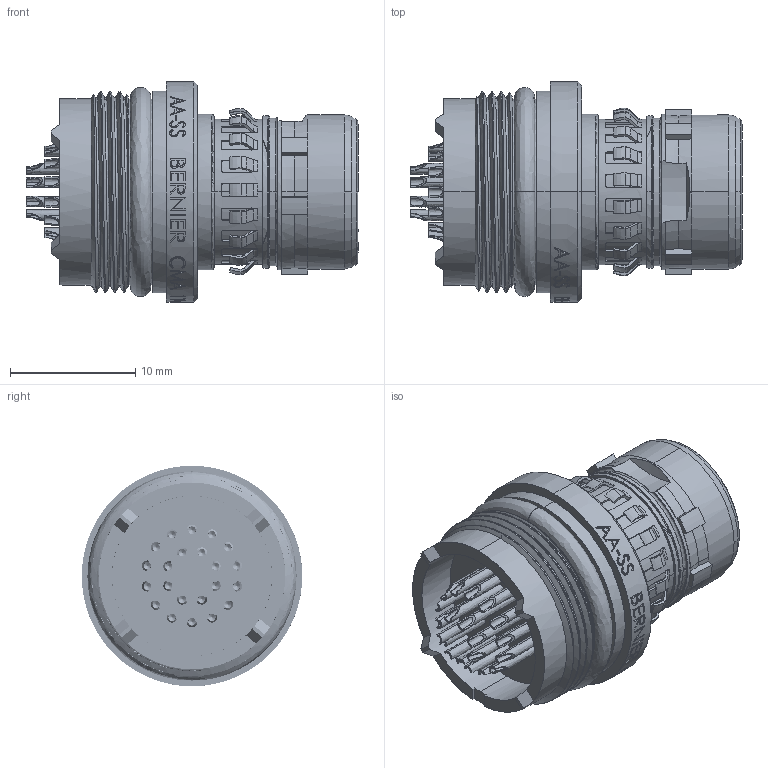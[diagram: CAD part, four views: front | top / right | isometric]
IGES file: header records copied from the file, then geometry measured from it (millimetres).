
Start section: SolidWorks IGES file using analytic representation for surfaces
Global section: file name: C:\Users\JGC\Desktop\CMA1W222.IGS; native system: SolidWorks 2017; preprocessor: SolidWorks 2017; author: jgc; date: 181029.102313; units: millimetre
Bounding box: 26.5 x 17.6 x 17.6 mm (x, y, z)
Surface area: 3388.4 mm2 (no closed solid volume)
Topology: 0 solids, 0 shells, 2186 faces, 21284 edges, 21141 vertices
Faces by surface type: revolution 1141, bspline 1045
